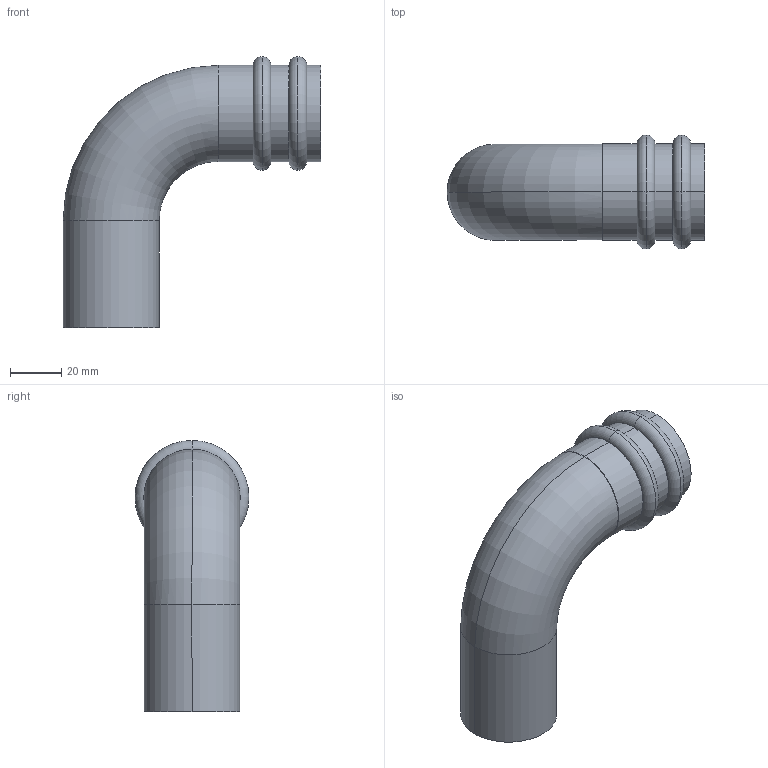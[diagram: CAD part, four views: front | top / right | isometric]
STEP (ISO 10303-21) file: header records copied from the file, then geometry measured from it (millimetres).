
FILE_DESCRIPTION(('starvars output'),'1');
FILE_NAME('cv20240422105039000011640.stp','10:50:40 2024/04/22',('Thomas Industrial Network Germany GmbH'),(' '),'Spatial InterOp 3D',' ',' ');
FILE_SCHEMA(('AUTOMOTIVE_DESIGN { 1 0 10303 214 3 1 1 }'));
Length unit declared in the file: millimetre
Products named in the file (1): 1
Bounding box: 100.77 x 44.5 x 106 mm (x, y, z)
Volume: 21194.6 mm3; surface area: 36794.1 mm2
Topology: 1 solids, 1 shells, 53 faces, 107 edges, 65 vertices
Faces by surface type: torus 20, cylinder 16, plane 11, cone 6
Entity records: 2043 total; most frequent: CARTESIAN_POINT 420, DIRECTION 289, ORIENTED_EDGE 214, AXIS2_PLACEMENT_3D 134, EDGE_CURVE 107, CIRCLE 80, VERTEX_POINT 65, EDGE_LOOP 64
